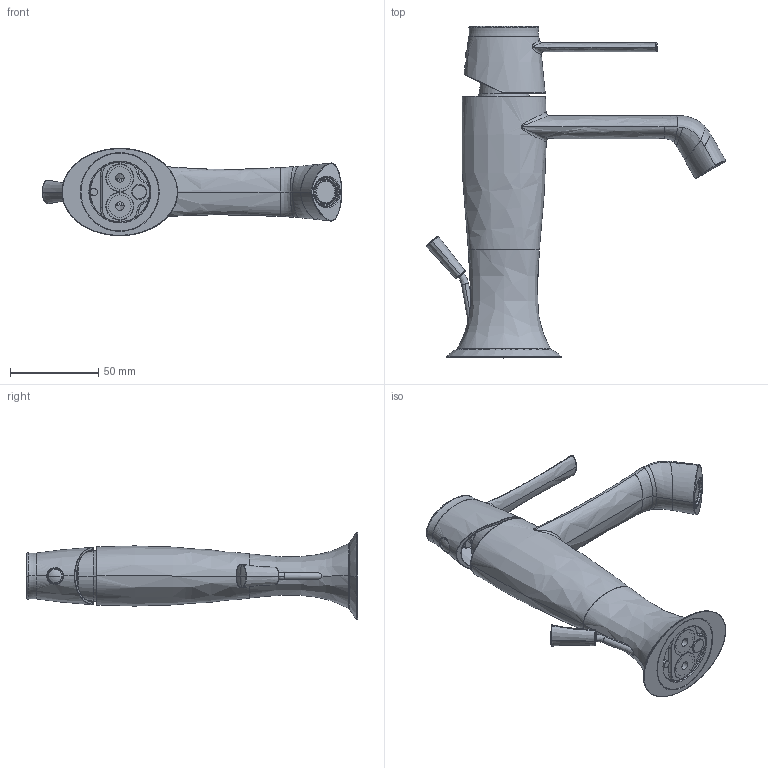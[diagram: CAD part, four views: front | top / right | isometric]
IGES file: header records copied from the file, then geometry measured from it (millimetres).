
Start section:  PTC IGES file: 58054.igs
Global section: file name: 58054.igs; native system: Creo Parametric by PTC Inc.; preprocessor: 2022014; author: carloff; organization: Unknown; date: 20260302.165708; units: millimetre
Bounding box: 169.38 x 187.6 x 49.3 mm (x, y, z)
Surface area: 82404.2 mm2 (no closed solid volume)
Topology: 0 solids, 0 shells, 1595 faces, 8223 edges, 8192 vertices
Faces by surface type: revolution 810, bspline 779, extrusion 6
